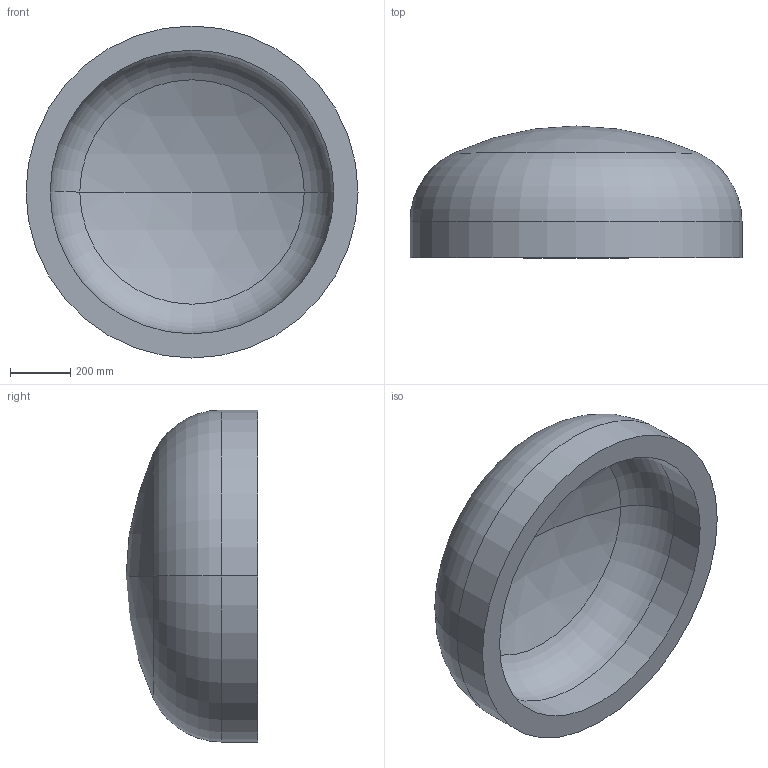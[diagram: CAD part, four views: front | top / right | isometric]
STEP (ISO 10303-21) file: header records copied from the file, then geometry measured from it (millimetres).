
FILE_DESCRIPTION (( 'STEP AP203' ), '1' );
FILE_NAME ('DIN 28013 Korbbogenform_-_Boden DIN 28013 - 1100 x 120 - I - s=80.step', '2016-07-01T09:13:29', ( '' ), ( '' ), 'SwSTEP 2.0', 'SolidWorks 2013', '' );
FILE_SCHEMA (( 'CONFIG_CONTROL_DESIGN' ));
Length unit declared in the file: millimetre
Products named in the file (1): DIN 28013 Korbbogenform_-_Boden DIN 28013 - 1100 x 120 - I - s=80
Bounding box: 1100 x 436.49 x 1100 mm (x, y, z)
Volume: 126894446.1 mm3; surface area: 3442118.6 mm2
Topology: 1 solids, 1 shells, 13 faces, 24 edges, 14 vertices
Faces by surface type: torus 4, cylinder 4, sphere 4, plane 1
Entity records: 407 total; most frequent: DIRECTION 72, CARTESIAN_POINT 52, ORIENTED_EDGE 48, AXIS2_PLACEMENT_3D 34, EDGE_CURVE 24, CIRCLE 20, EDGE_LOOP 14, VERTEX_POINT 14
